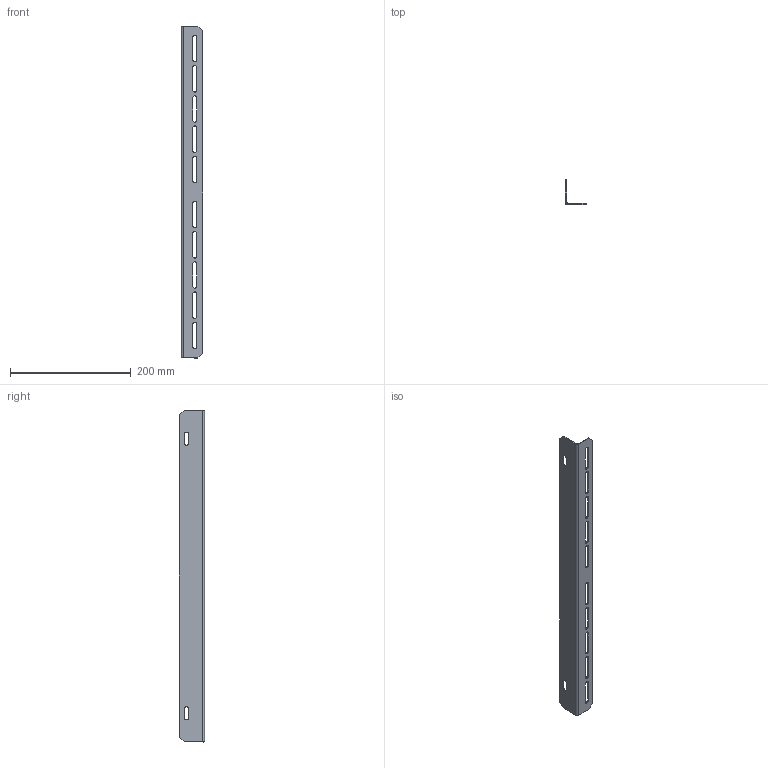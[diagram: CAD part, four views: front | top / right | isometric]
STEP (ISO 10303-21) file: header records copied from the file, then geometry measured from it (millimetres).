
FILE_DESCRIPTION (( 'STEP AP203' ), '1' );
FILE_NAME ('MG 55.03 IL Ðåéêà îïîðíàÿ.STEP', '2017-11-19T06:59:40', ( 'user' ), ( '' ), 'SwSTEP 2.0', 'SolidWorks 2012', '' );
FILE_SCHEMA (( 'CONFIG_CONTROL_DESIGN' ));
Length unit declared in the file: millimetre
Products named in the file (1): MG 55.03 IL Ðåéêà îïîðíàÿ
Bounding box: 35 x 41.5 x 550 mm (x, y, z)
Volume: 74002.7 mm3; surface area: 78587.6 mm2
Topology: 1 solids, 1 shells, 66 faces, 184 edges, 120 vertices
Faces by surface type: plane 40, cylinder 26
Entity records: 2241 total; most frequent: CARTESIAN_POINT 371, DIRECTION 370, ORIENTED_EDGE 368, EDGE_CURVE 184, LINE 132, VECTOR 132, VERTEX_POINT 120, AXIS2_PLACEMENT_3D 119
